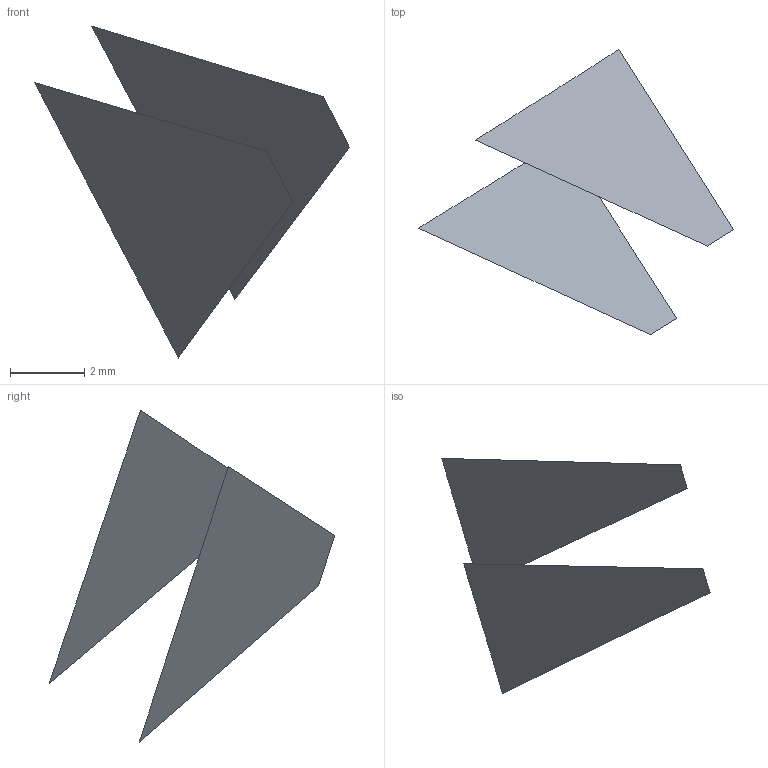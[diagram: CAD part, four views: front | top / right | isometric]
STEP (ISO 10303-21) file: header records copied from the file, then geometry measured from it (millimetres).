
FILE_DESCRIPTION(('FreeCAD Model'),'2;1');
FILE_NAME('Open CASCADE Shape Model','2022-05-22T07:50:31',('FreeCAD'),( 'FreeCAD'),'Open CASCADE STEP processor 7.5','FreeCAD','Unknown');
FILE_SCHEMA(('AUTOMOTIVE_DESIGN { 1 0 10303 214 1 1 1 1 }'));
Length unit declared in the file: millimetre
Products named in the file (3): Open CASCADE STEP translator 7.5 10; Open CASCADE STEP translator 7.5 10.1; Open CASCADE STEP translator 7.5 10.2
Assembly tree (2 placements, depth 2):
  Open CASCADE STEP translator 7.5 10
    Open CASCADE STEP translator 7.5 10.1
    Open CASCADE STEP translator 7.5 10.2
Bounding box: 8.47 x 7.68 x 8.93 mm (x, y, z)
Surface area: 63 mm2 (no closed solid volume)
Topology: 0 solids, 2 shells, 2 faces, 34 edges, 34 vertices
Faces by surface type: bspline 2
Entity records: 514 total; most frequent: CARTESIAN_POINT 181, B_SPLINE_CURVE_WITH_KNOTS 68, ORIENTED_EDGE 34, EDGE_CURVE 34, VERTEX_POINT 34, SURFACE_CURVE 34, PCURVE 34, DEFINITIONAL_REPRESENTATION 34
